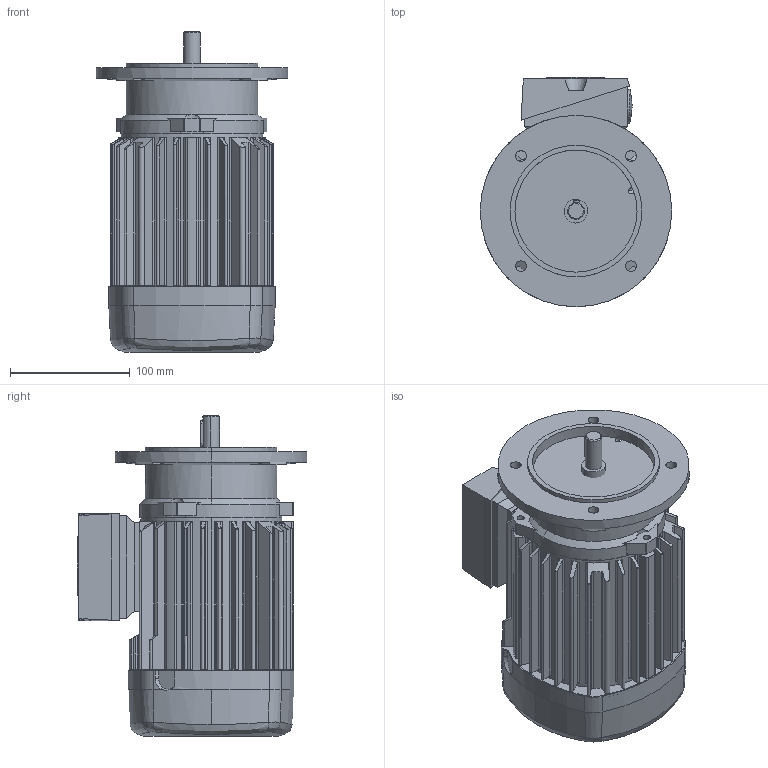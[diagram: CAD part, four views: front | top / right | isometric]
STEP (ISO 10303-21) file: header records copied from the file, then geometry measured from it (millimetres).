
FILE_DESCRIPTION (( 'STEP AP214' ), '1' );
FILE_NAME ('IE3-W41R71_B5FF130.STEP', '2024-10-22T03:48:28', ( '' ), ( '' ), 'SwSTEP 2.0', 'SolidWorks 2023', '' );
FILE_SCHEMA (( 'AUTOMOTIVE_DESIGN' ));
Length unit declared in the file: millimetre
Products named in the file (9): KA05_komplett_Kat_VSS_2xM25; WE_B5K_RWE_Kat_14x30 (W21R71); LF_FF_B5K_klein_LF08 FF130; RG 07_Kat; Verschlussschraube_M25; KD05_Kat; IE3-W41R71_B5FF130; KA05_Kat; LHB_Kat_LHB07
Assembly tree (9 placements, depth 3):
  IE3-W41R71_B5FF130
    RG 07_Kat
    LHB_Kat_LHB07
    LF_FF_B5K_klein_LF08 FF130
    WE_B5K_RWE_Kat_14x30 (W21R71)
    KA05_komplett_Kat_VSS_2xM25
      KA05_Kat
      KD05_Kat
      Verschlussschraube_M25  x2
Bounding box: 160 x 192 x 268 mm (x, y, z)
Volume: 3473745 mm3; surface area: 320567.9 mm2
Topology: 8 solids, 8 shells, 521 faces, 1372 edges, 902 vertices
Faces by surface type: cylinder 231, plane 226, cone 50, bspline 8, sphere 4, torus 2
Entity records: 17794 total; most frequent: CARTESIAN_POINT 5039, ORIENTED_EDGE 2666, DIRECTION 2566, EDGE_CURVE 1333, AXIS2_PLACEMENT_3D 945, VERTEX_POINT 876, VECTOR 676, LINE 676
